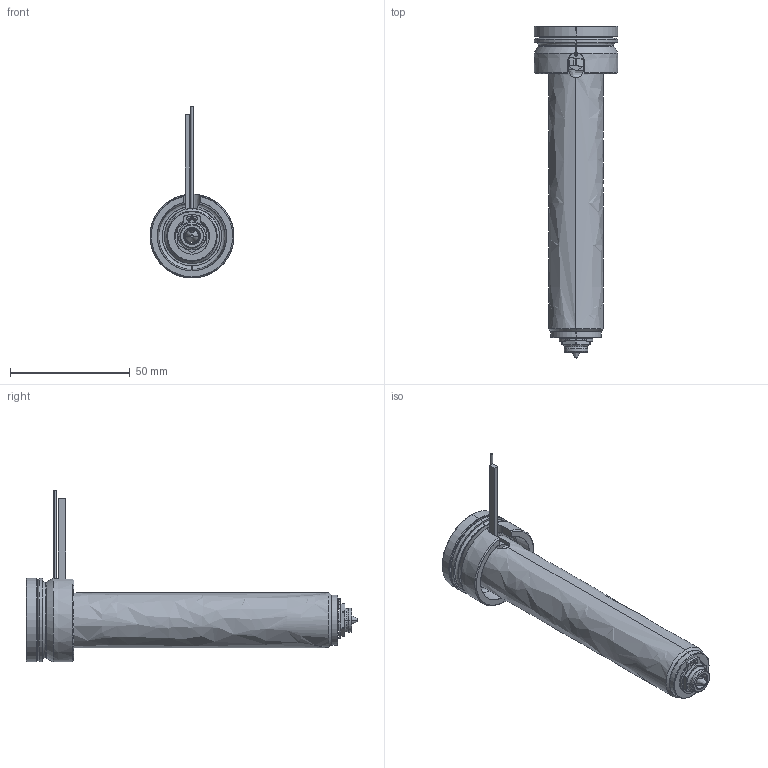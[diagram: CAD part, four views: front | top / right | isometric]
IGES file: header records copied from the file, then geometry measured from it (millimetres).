
Start section: SolidWorks IGES file using analytic representation for surfaces
Global section: file name: C:\Documents and Settings\ws-20\Desktop\TEM\UGEP3053-S-A-1 [Øf-1.10 ØC-6.0].IGS; native system: SolidWorks 2012; preprocessor: SolidWorks 2012; author: ws-20; date: 120402.112508; units: millimetre
Bounding box: 35 x 138.8 x 71.9 mm (x, y, z)
Surface area: 28136 mm2 (no closed solid volume)
Topology: 0 solids, 0 shells, 136 faces, 2131 edges, 2131 vertices
Faces by surface type: revolution 85, bspline 51
